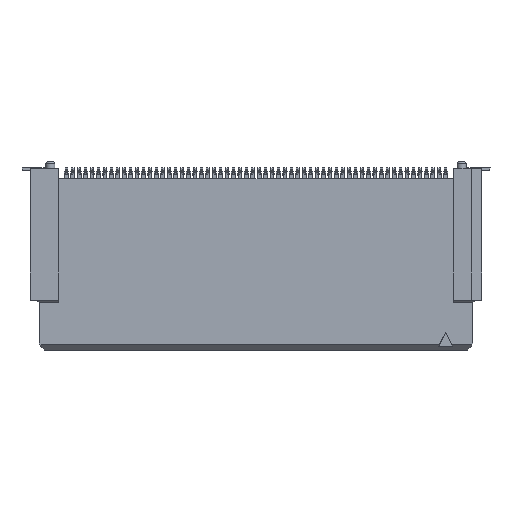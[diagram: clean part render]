
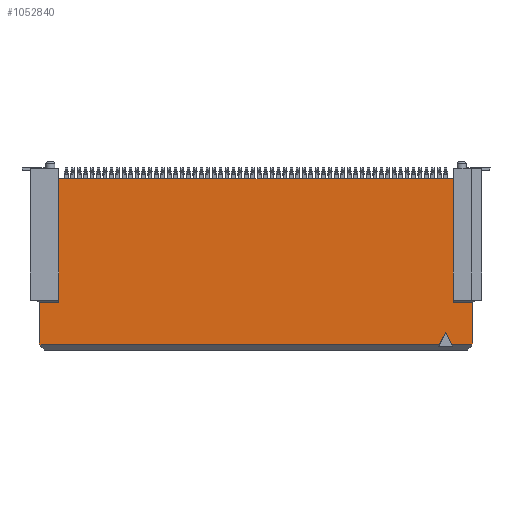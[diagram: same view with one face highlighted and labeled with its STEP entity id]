
A CAD part, front view. The second image highlights one B-rep face of the part: STEP entity #1052840.
In plain terms, the highlighted planar face has unit normal (0, -1, 0) as drawn and (0, 1, 0) by its records, which use the part's own axes.
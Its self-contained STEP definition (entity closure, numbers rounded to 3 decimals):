
#57770=CARTESIAN_POINT('',(7.48,3.2,
-16.272));
#57780=VERTEX_POINT('',#57770);
#57930=CARTESIAN_POINT('',(6.48,3.2,
-15.772));
#57940=VERTEX_POINT('',#57930);
#57970=CARTESIAN_POINT('',(0.,3.2,-12.532));
#57980=DIRECTION('',(0.894,0.,
-0.447));
#57990=VECTOR('',#57980,1.);
#58000=LINE('',#57970,#57990);
#58010=EDGE_CURVE('',#57940,#57780,#58000,.T.);
#122990=CARTESIAN_POINT('',(7.48,3.2,
-17.822));
#123000=VERTEX_POINT('',#122990);
#123030=CARTESIAN_POINT('',(0.,3.2,
-20.814));
#123040=DIRECTION('',(0.928,0.,
0.371));
#123050=VECTOR('',#123040,1.);
#123060=LINE('',#123030,#123050);
#123070=CARTESIAN_POINT('',(7.33,3.2,
-17.882));
#123080=VERTEX_POINT('',#123070);
#123090=EDGE_CURVE('',#123080,#123000,#123060,.T.);
#126330=CARTESIAN_POINT('',(4.2,3.2,
-17.882));
#126340=VERTEX_POINT('',#126330);
#126370=CARTESIAN_POINT('',(4.2,3.2,
-17.132));
#126380=DIRECTION('',(0.,0.,-1.));
#126390=VECTOR('',#126380,1.);
#126400=LINE('',#126370,#126390);
#126410=CARTESIAN_POINT('',(4.2,3.2,
-16.382));
#126420=VERTEX_POINT('',#126410);
#126430=EDGE_CURVE('',#126420,#126340,#126400,.T.);
#153500=CARTESIAN_POINT('',(0.,3.2,-19.012));
#153510=DIRECTION('',(-0.894,0.,
-0.447));
#153520=VECTOR('',#153510,1.);
#153530=LINE('',#153500,#153520);
#153540=CARTESIAN_POINT('',(7.48,3.2,
-15.272));
#153550=VERTEX_POINT('',#153540);
#153560=EDGE_CURVE('',#153550,#57940,#153530,.T.);
#154250=CARTESIAN_POINT('',(7.88,3.2,
-17.882));
#154260=DIRECTION('',(-1.,0.,0.));
#154270=VECTOR('',#154260,1.);
#154280=LINE('',#154250,#154270);
#154290=EDGE_CURVE('',#123080,#126340,#154280,.T.);
#169560=CARTESIAN_POINT('',(0.,3.2,
-16.382));
#169570=DIRECTION('',(1.,0.,0.));
#169580=VECTOR('',#169570,1.);
#169590=LINE('',#169560,#169580);
#169600=CARTESIAN_POINT('',(-5.43,3.2,
-16.382));
#169610=VERTEX_POINT('',#169600);
#169620=EDGE_CURVE('',#169610,#126420,#169590,.T.);
#211780=CARTESIAN_POINT('',(-5.43,3.2,
-9.545));
#211790=DIRECTION('',(0.,0.,-1.));
#211800=VECTOR('',#211790,1.);
#211810=LINE('',#211780,#211800);
#211820=CARTESIAN_POINT('',(-5.43,3.2,
14.338));
#211830=VERTEX_POINT('',#211820);
#211840=EDGE_CURVE('',#211830,#169610,#211810,.T.);
#262050=CARTESIAN_POINT('',(4.2,3.2,
14.338));
#262060=VERTEX_POINT('',#262050);
#262090=CARTESIAN_POINT('',(4.2,3.2,
15.088));
#262100=DIRECTION('',(0.,0.,1.));
#262110=VECTOR('',#262100,1.);
#262120=LINE('',#262090,#262110);
#262130=CARTESIAN_POINT('',(4.2,3.2,
15.838));
#262140=VERTEX_POINT('',#262130);
#262150=EDGE_CURVE('',#262060,#262140,#262120,.T.);
#423310=CARTESIAN_POINT('',(7.48,3.2,
14.908));
#423320=DIRECTION('',(0.,0.,1.));
#423330=VECTOR('',#423320,1.);
#423340=LINE('',#423310,#423330);
#423350=CARTESIAN_POINT('',(7.48,3.2,
15.778));
#423360=VERTEX_POINT('',#423350);
#423370=EDGE_CURVE('',#153550,#423360,#423340,.T.);
#423420=CARTESIAN_POINT('',(7.48,3.2,
-0.092));
#423430=DIRECTION('',(0.,0.,1.));
#423440=VECTOR('',#423430,1.);
#423450=LINE('',#423420,#423440);
#423460=EDGE_CURVE('',#123000,#57780,#423450,.T.);
#1052470=CARTESIAN_POINT('',(-0.57,3.2,
6.309));
#1052480=DIRECTION('',(0.,1.,0.));
#1052490=DIRECTION('',(0.,0.,1.));
#1052500=AXIS2_PLACEMENT_3D('',#1052470,#1052480,#1052490);
#1052510=PLANE('',#1052500);
#1052520=CARTESIAN_POINT('',(0.,3.2,
18.77));
#1052530=DIRECTION('',(0.928,0.,
-0.371));
#1052540=VECTOR('',#1052530,1.);
#1052550=LINE('',#1052520,#1052540);
#1052560=CARTESIAN_POINT('',(7.33,3.2,
15.838));
#1052570=VERTEX_POINT('',#1052560);
#1052580=EDGE_CURVE('',#1052570,#423360,#1052550,.T.);
#1052590=ORIENTED_EDGE('',*,*,#1052580,.T.);
#1052600=CARTESIAN_POINT('',(7.88,3.2,
15.838));
#1052610=DIRECTION('',(-1.,0.,0.));
#1052620=VECTOR('',#1052610,1.);
#1052630=LINE('',#1052600,#1052620);
#1052640=EDGE_CURVE('',#1052570,#262140,#1052630,.T.);
#1052650=ORIENTED_EDGE('',*,*,#1052640,.F.);
#1052660=ORIENTED_EDGE('',*,*,#262150,.T.);
#1052670=CARTESIAN_POINT('',(0.,3.2,
14.338));
#1052680=DIRECTION('',(1.,0.,0.));
#1052690=VECTOR('',#1052680,1.);
#1052700=LINE('',#1052670,#1052690);
#1052710=EDGE_CURVE('',#211830,#262060,#1052700,.T.);
#1052720=ORIENTED_EDGE('',*,*,#1052710,.T.);
#1052730=ORIENTED_EDGE('',*,*,#211840,.F.);
#1052740=ORIENTED_EDGE('',*,*,#169620,.F.);
#1052750=ORIENTED_EDGE('',*,*,#126430,.F.);
#1052760=ORIENTED_EDGE('',*,*,#154290,.T.);
#1052770=ORIENTED_EDGE('',*,*,#123090,.F.);
#1052780=ORIENTED_EDGE('',*,*,#423460,.F.);
#1052790=ORIENTED_EDGE('',*,*,#58010,.T.);
#1052800=ORIENTED_EDGE('',*,*,#153560,.T.);
#1052810=ORIENTED_EDGE('',*,*,#423370,.F.);
#1052820=EDGE_LOOP('',(#1052810,#1052800,#1052790,#1052780,#1052770,
#1052760,#1052750,#1052740,#1052730,#1052720,#1052660,#1052650,#1052590)
);
#1052830=FACE_OUTER_BOUND('',#1052820,.T.);
#1052840=ADVANCED_FACE('',(#1052830),#1052510,.T.);
